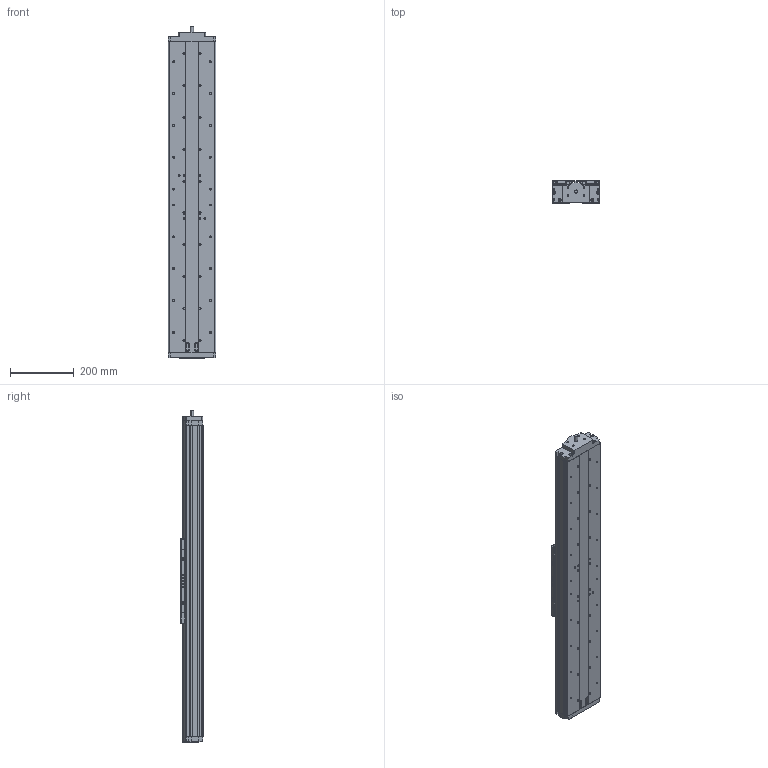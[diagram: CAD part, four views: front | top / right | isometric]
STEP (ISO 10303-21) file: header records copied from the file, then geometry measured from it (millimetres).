
FILE_DESCRIPTION((''),'2;1');
FILE_NAME('406XR-07_ASM','2002-07-12T',('FKrakosh'),(''),'PRO/ENGINEER BY PARAMETRIC TECHNOLOGY CORPORATION, 2000420','PRO/ENGINEER BY PARAMETRIC TECHNOLOGY CORPORATION, 2000420','');
FILE_SCHEMA(('CONFIG_CONTROL_DESIGN'));
Length unit declared in the file: millimetre
Products named in the file (8): 406XR-BASE-07; 406XR-REAR-END-BLK; 406XR-CARRIAGE; 10853610-01; 406XR-FEB-10MM; 10426110; 30321911; 406XR-07_ASM
Assembly tree (8 placements, depth 2):
  406XR-07_ASM
    406XR-BASE-07
    406XR-REAR-END-BLK
    406XR-CARRIAGE
    10853610-01  x2
    406XR-FEB-10MM
    10426110
    30321911
Bounding box: 150 x 69.9 x 1042.73 mm (x, y, z)
Volume: 8809218 mm3; surface area: 681835.5 mm2
Topology: 8 solids, 66 shells, 948 faces, 2348 edges, 1572 vertices
Faces by surface type: cylinder 494, plane 424, bspline 16, sphere 12, cone 2
Entity records: 26932 total; most frequent: CARTESIAN_POINT 5764, DIRECTION 4678, ORIENTED_EDGE 3958, EDGE_CURVE 2091, AXIS2_PLACEMENT_3D 1813, VERTEX_POINT 1415, EDGE_LOOP 1062, VECTOR 1052
